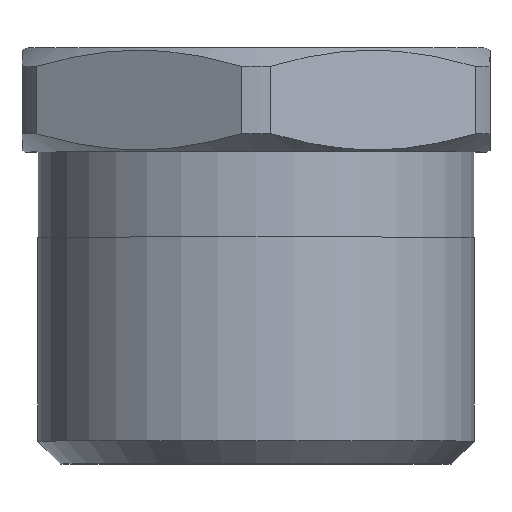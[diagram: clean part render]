
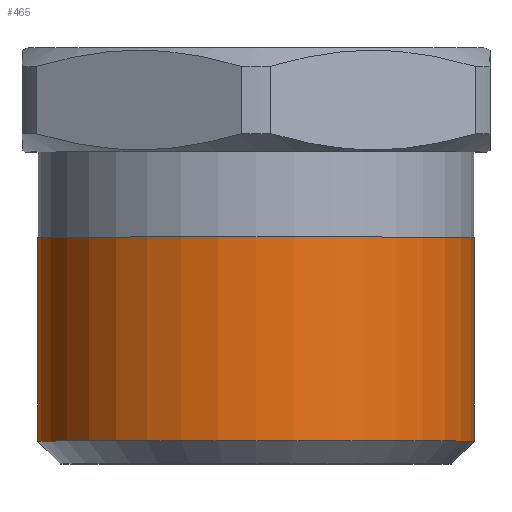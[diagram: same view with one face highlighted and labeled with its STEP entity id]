
A CAD part, top view. The second image highlights one B-rep face of the part: STEP entity #465.
In plain terms, the highlighted cylindrical face has radius 13.335 mm (diameter 26.67 mm), a full revolution.
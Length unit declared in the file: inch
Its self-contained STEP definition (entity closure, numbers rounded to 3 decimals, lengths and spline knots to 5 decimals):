
#28=CYLINDRICAL_SURFACE('',#536,0.525);
#59=CIRCLE('',#534,0.525);
#60=CIRCLE('',#535,0.525);
#61=CIRCLE('',#537,0.525);
#62=CIRCLE('',#538,0.525);
#92=FACE_OUTER_BOUND('',#121,.T.);
#121=EDGE_LOOP('',(#412,#413,#414,#415,#416,#417));
#146=LINE('',#843,#167);
#167=VECTOR('',#673,0.525);
#222=VERTEX_POINT('',#836);
#223=VERTEX_POINT('',#838);
#224=VERTEX_POINT('',#842);
#225=VERTEX_POINT('',#844);
#288=EDGE_CURVE('',#222,#223,#59,.T.);
#289=EDGE_CURVE('',#223,#222,#60,.T.);
#290=EDGE_CURVE('',#223,#224,#146,.T.);
#291=EDGE_CURVE('',#224,#225,#61,.T.);
#292=EDGE_CURVE('',#225,#224,#62,.T.);
#412=ORIENTED_EDGE('',*,*,#288,.F.);
#413=ORIENTED_EDGE('',*,*,#289,.F.);
#414=ORIENTED_EDGE('',*,*,#290,.T.);
#415=ORIENTED_EDGE('',*,*,#291,.T.);
#416=ORIENTED_EDGE('',*,*,#292,.T.);
#417=ORIENTED_EDGE('',*,*,#290,.F.);
#465=ADVANCED_FACE('',(#92),#28,.T.);
#534=AXIS2_PLACEMENT_3D('',#839,#667,#668);
#535=AXIS2_PLACEMENT_3D('',#840,#669,#670);
#536=AXIS2_PLACEMENT_3D('',#841,#671,#672);
#537=AXIS2_PLACEMENT_3D('',#845,#674,#675);
#538=AXIS2_PLACEMENT_3D('',#846,#676,#677);
#667=DIRECTION('center_axis',(0.,-1.,0.));
#668=DIRECTION('ref_axis',(0.,0.,1.));
#669=DIRECTION('center_axis',(0.,-1.,0.));
#670=DIRECTION('ref_axis',(0.,0.,1.));
#671=DIRECTION('center_axis',(0.,-1.,0.));
#672=DIRECTION('ref_axis',(0.,0.,-1.));
#673=DIRECTION('',(0.,1.,0.));
#674=DIRECTION('center_axis',(0.,-1.,0.));
#675=DIRECTION('ref_axis',(1.,0.,0.));
#676=DIRECTION('center_axis',(0.,-1.,0.));
#677=DIRECTION('ref_axis',(1.,0.,0.));
#836=CARTESIAN_POINT('',(0.,0.055,-0.525));
#838=CARTESIAN_POINT('',(0.,0.055,0.525));
#839=CARTESIAN_POINT('Origin',(0.,0.055,0.));
#840=CARTESIAN_POINT('Origin',(0.,0.055,0.));
#841=CARTESIAN_POINT('Origin',(0.,0.2725,0.));
#842=CARTESIAN_POINT('',(0.,0.545,0.525));
#843=CARTESIAN_POINT('',(0.,0.2725,0.525));
#844=CARTESIAN_POINT('',(0.,0.545,-0.525));
#845=CARTESIAN_POINT('Origin',(0.,0.545,0.));
#846=CARTESIAN_POINT('Origin',(0.,0.545,0.));
